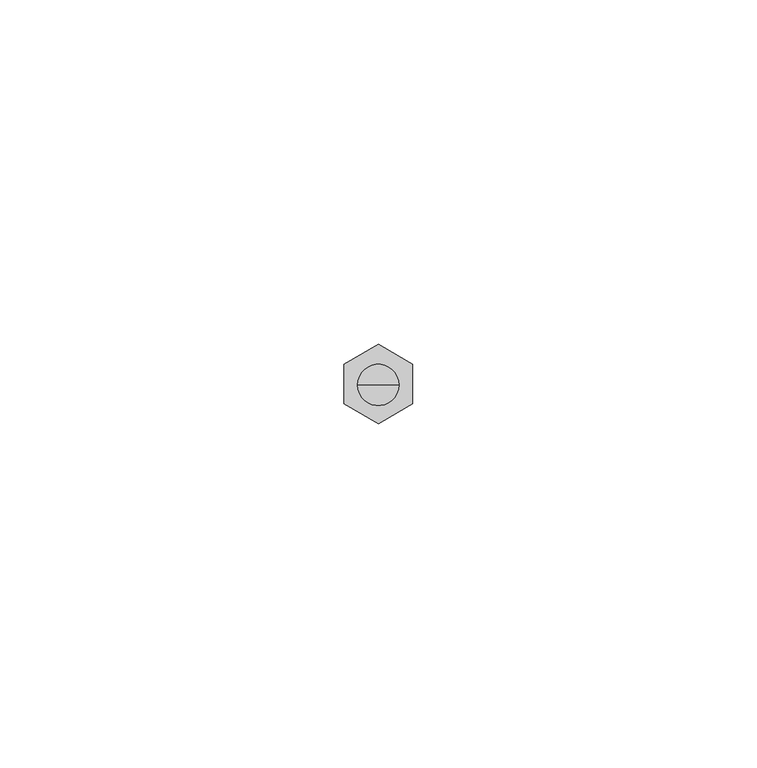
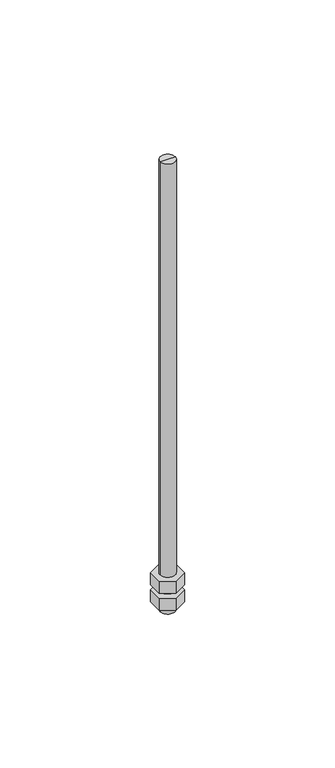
"""IFC4 building model written with IfcOpenShell, lengths in millimetres: proxy geometry, durlum_threaded_rod_M6 : durlum_threaded_rod_M6."""

from ifc_helpers import new_model, si_unit, frame, origin, origin_with_axes, place, context, project, spatial, polyline, circle_curve, outline, extrude, source, transform, mapped, element, save
from ifc_brep_helpers import plane_surface, cylinder_surface, advanced_brep


def generic_models_c4ad3073(model_context):
    return source(origin(), model_context, "Body", "SolidModel", [
        extrude(outline(polyline([(5.0, 3.0421914), (5.0, -2.7313113), (0.0, -5.6180626), (-5.0, -2.7313113), (-5.0, 3.0421914), (0.0, 5.9289428), (5.0, 3.0421914)])), frame((0.0, 0.0, -7.0), z_axis=(0.0, 0.0, 1.0), x_axis=(1.0, 0.0, 0.0)), (0.0, 0.0, 1.0), 5.0),
        extrude(outline(polyline([(5.0, 3.0421914), (5.0, -2.7313113), (0.0, -5.6180626), (-5.0, -2.7313113), (-5.0, 3.0421914), (0.0, 5.9289428), (5.0, 3.0421914)])), origin_with_axes(), (0.0, 0.0, 1.0), 5.0),
        advanced_brep(
        [(-3.0, 0.0, 177.305144), (3.0, 0.0, 177.305144), (3.0, 0.0, -10.0), (-3.0, 0.0, -10.0), (0.0, 0.0, 177.305144), (0.0, 0.0, -10.0)],
        [
            (0, 1, circle_curve(frame((0.0, 0.0, 177.305144), z_axis=(0.0, 0.0, -1.0), x_axis=(1.0, 0.0, 0.0)), 3.0)),
            (1, 2),
            (2, 3, circle_curve(frame((0.0, 0.0, -10.0), z_axis=(0.0, 0.0, 1.0), x_axis=(1.0, 0.0, 0.0)), 3.0)),
            (3, 0),
            (1, 0, circle_curve(frame((0.0, 0.0, 177.305144), z_axis=(0.0, 0.0, -1.0), x_axis=(1.0, 0.0, 0.0)), 3.0)),
            (3, 2, circle_curve(frame((0.0, 0.0, -10.0), z_axis=(0.0, 0.0, 1.0), x_axis=(1.0, 0.0, 0.0)), 3.0)),
            (4, 1),
            (0, 4),
            (2, 5),
            (5, 3),
        ],
        [
            cylinder_surface(frame((0.0, 0.0, -675.0), z_axis=(0.0, 0.0, 1.0), x_axis=(1.0, 0.0, 0.0)), 3.0),
            plane_surface(frame((0.0, 0.0, 177.305144), z_axis=(0.0, 0.0, 1.0), x_axis=(1.0, 0.0, 0.0))),
            plane_surface(frame((0.0, 0.0, -10.0), z_axis=(0.0, 0.0, -1.0), x_axis=(1.0, 0.0, 0.0))),
        ],
        [
            (0, [[1, 2, 3, 4]]),
            (0, [[5, -4, 6, -2]]),
            (1, [[7, -1, 8]]),
            (1, [[-8, -5, -7]]),
            (2, [[-3, 9, 10]]),
            (2, [[-6, -10, -9]]),
        ],
    ),
    ])


if __name__ == "__main__":
    model = new_model("IFC4")
    model_context = context("Model", 3, world=origin())
    ifc_project = project(units=[si_unit("LENGTHUNIT", "METRE", prefix="MILLI")], contexts=[model_context])
    site = spatial("IfcSite", under=ifc_project)
    building = spatial("IfcBuilding", under=site)
    placement = place(None, origin())
    generic_models_shape = generic_models_c4ad3073(model_context)
    element("IfcBuildingElementProxy", 1, Name="durlum_threaded_rod_M6 : durlum_threaded_rod_M6", ObjectType="durlum_threaded_rod_M6 : durlum_threaded_rod_M6", at=placement, inside=building, context=model_context, shape_type="MappedRepresentation", body=[
        mapped(generic_models_shape, transform((0.0, 0.0, 0.0), x_axis=(1.0, 0.0, 0.0), y_axis=(0.0, 1.0, 0.0), z_axis=(0.0, 0.0, 1.0))),
    ])
    save(model, "model.ifc")
